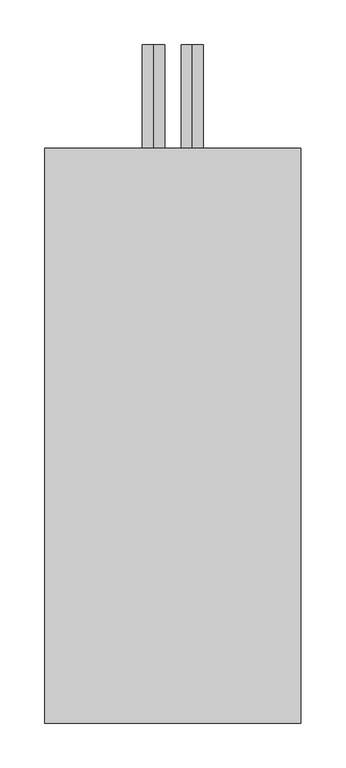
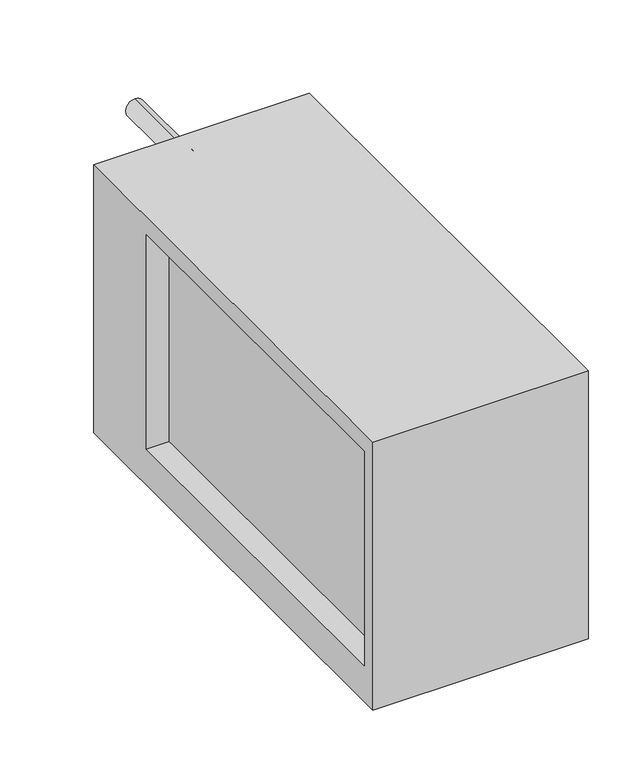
"""IFC4 building model written with IfcOpenShell, lengths in millimetres: proxy geometry, СВ_ВоздухоохладительВодяной_КанальныйПрямоугольный_200-1000_SPC-W : SPC-W-500x300-L."""

from ifc_helpers import new_model, si_unit, point, frame, frame_2d, origin, place, context, project, spatial, polyline, circle_curve, trimmed, segment, composite_curve, outline, extrude, source, transform, mapped, element, save


def mechanical_equipment_a84c9fad(model_context):
    return source(origin(), model_context, "Body", "SweptSolid", [
        extrude(outline(polyline([(-270.0, -200.0), (-270.0, 175.0), (370.0, 175.0), (370.0, -200.0), (-270.0, -200.0)]), holes=[polyline([(-250.0, 150.0), (-250.0, -150.0), (250.0, -150.0), (250.0, 150.0), (-250.0, 150.0)])]), frame((-142.5, 0.0, 0.0), z_axis=(1.0, 0.0, 0.0), x_axis=(0.0, 1.0, 0.0)), (0.0, 0.0, 1.0), 285.0),
        extrude(outline(composite_curve([segment(trimmed(circle_curve(frame_2d((-142.5, 21.5)), 12.5), [point((-155.0, 21.5))], [point((-130.0, 21.5))], False, "CARTESIAN"), True, "CONTINUOUS"), segment(trimmed(circle_curve(frame_2d((-142.5, 21.5)), 12.5), [point((-130.0, 21.5))], [point((-155.0, 21.5))], False, "CARTESIAN"), True, "CONTINUOUS")], self_intersect=False)), frame((0.0, 370.0, 0.0), z_axis=(0.0, 1.0, 0.0), x_axis=(0.0, 0.0, 1.0)), (0.0, 0.0, 1.0), 115.0),
        extrude(outline(composite_curve([segment(trimmed(circle_curve(frame_2d((142.5, -21.5)), 12.5), [point((130.0, -21.5))], [point((155.0, -21.5))], False, "CARTESIAN"), True, "CONTINUOUS"), segment(trimmed(circle_curve(frame_2d((142.5, -21.5)), 12.5), [point((155.0, -21.5))], [point((130.0, -21.5))], False, "CARTESIAN"), True, "CONTINUOUS")], self_intersect=False)), frame((0.0, 370.0, 0.0), z_axis=(0.0, 1.0, 0.0), x_axis=(0.0, 0.0, 1.0)), (0.0, 0.0, 1.0), 115.0),
        extrude(outline(composite_curve([segment(trimmed(circle_curve(frame_2d((0.0, 330.0)), 11.0), [point((-11.0, 330.0))], [point((11.0, 330.0))], False, "CARTESIAN"), True, "CONTINUOUS"), segment(trimmed(circle_curve(frame_2d((0.0, 330.0)), 11.0), [point((11.0, 330.0))], [point((-11.0, 330.0))], False, "CARTESIAN"), True, "CONTINUOUS")], self_intersect=False)), frame((0.0, 0.0, -220.0), z_axis=(0.0, 0.0, 1.0), x_axis=(1.0, 0.0, 0.0)), (0.0, 0.0, 1.0), 20.0),
        extrude(outline(polyline([(112.5, 250.0), (112.5, -250.0), (-112.5, -250.0), (-112.5, 250.0), (112.5, 250.0)])), frame((0.0, 0.0, -150.0), z_axis=(0.0, 0.0, 1.0), x_axis=(1.0, 0.0, 0.0)), (0.0, 0.0, 1.0), 300.0),
    ])


if __name__ == "__main__":
    model = new_model("IFC4")
    model_context = context("Model", 3, world=origin())
    ifc_project = project(units=[si_unit("LENGTHUNIT", "METRE", prefix="MILLI")], contexts=[model_context])
    site = spatial("IfcSite", under=ifc_project)
    building = spatial("IfcBuilding", under=site)
    placement = place(None, origin())
    mechanical_equipment_shape = mechanical_equipment_a84c9fad(model_context)
    element("IfcBuildingElementProxy", 1, Name="СВ_ВоздухоохладительВодяной_КанальныйПрямоугольный_200-1000_SPC-W : SPC-W-500x300-L", ObjectType="СВ_ВоздухоохладительВодяной_КанальныйПрямоугольный_200-1000_SPC-W : SPC-W-500x300-L", at=placement, inside=building, context=model_context, shape_type="MappedRepresentation", body=[
        mapped(mechanical_equipment_shape, transform((0.0, 0.0, 0.0), x_axis=(1.0, 0.0, 0.0), y_axis=(0.0, 1.0, 0.0), z_axis=(0.0, 0.0, 1.0))),
    ])
    save(model, "model.ifc")
